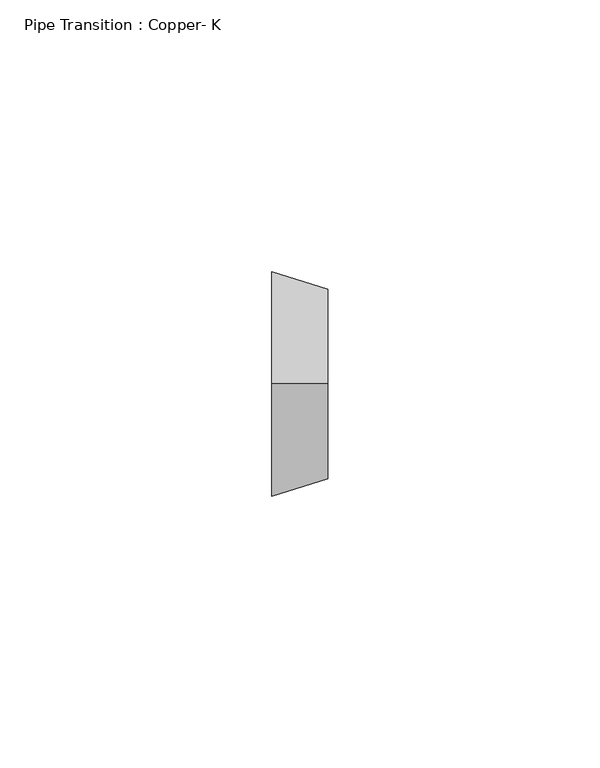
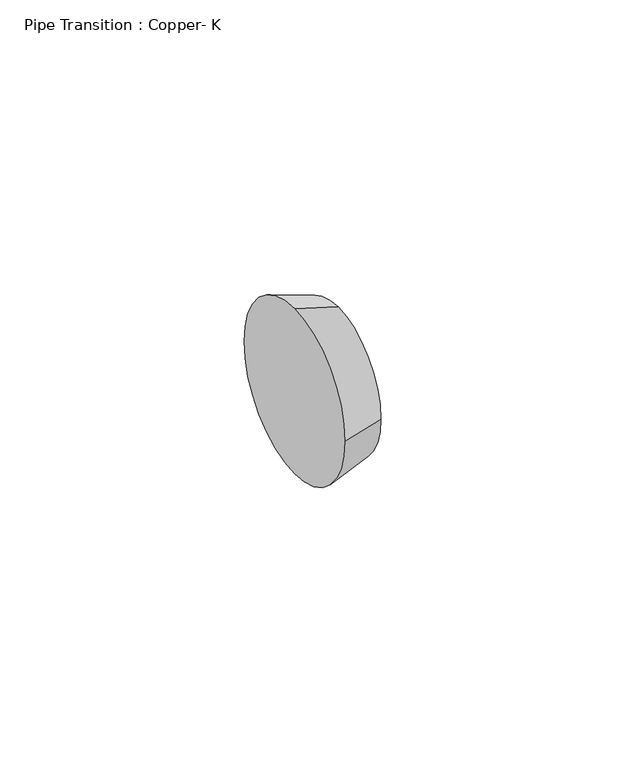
"""IFC4 building model written with IfcOpenShell, lengths in millimetres: pipe fitting geometry, Pipe Transition : Copper- K."""

from ifc_helpers import new_model, si_unit, frame, origin, place, context, project, spatial, polyline, circle_curve, source, transform, mapped, element, save
from ifc_brep_helpers import plane_surface, revolved_surface, advanced_brep


def pipe_transition_copper_k_f5fb5327(model_context):
    return source(origin(), model_context, "Body", "AdvancedBrep", [
        advanced_brep(
        [(10.31875, 0.0, 17.4625), (10.31875, -17.4625, 0.0), (10.31875, 0.0, -17.4625), (10.31875, 17.4625, 0.0), (0.0, 0.0, 20.6375), (0.0, 20.6375, 0.0), (0.0, 0.0, -20.6375), (0.0, -20.6375, 0.0)],
        [
            (0, 1, circle_curve(frame((10.31875, 0.0, 0.0), z_axis=(1.0, 0.0, 0.0), x_axis=(0.0, 0.0, 1.0)), 17.4625)),
            (1, 2, circle_curve(frame((10.31875, 0.0, 0.0), z_axis=(1.0, 0.0, 0.0), x_axis=(0.0, -1.0, 0.0)), 17.4625)),
            (2, 3, circle_curve(frame((10.31875, 0.0, 0.0), z_axis=(1.0, 0.0, 0.0), x_axis=(0.0, 0.0, -1.0)), 17.4625)),
            (3, 0, circle_curve(frame((10.31875, 0.0, 0.0), z_axis=(1.0, 0.0, 0.0), x_axis=(0.0, 1.0, 0.0)), 17.4625)),
            (4, 5, circle_curve(frame((0.0, 0.0, 0.0), z_axis=(-1.0, 0.0, 0.0), x_axis=(0.0, 1.0, 0.0)), 20.6375)),
            (5, 6, circle_curve(frame((0.0, 0.0, 0.0), z_axis=(-1.0, 0.0, 0.0), x_axis=(0.0, 0.0, -1.0)), 20.6375)),
            (6, 7, circle_curve(frame((0.0, 0.0, 0.0), z_axis=(-1.0, 0.0, 0.0), x_axis=(0.0, -1.0, 0.0)), 20.6375)),
            (7, 4, circle_curve(frame((0.0, 0.0, 0.0), z_axis=(-1.0, 0.0, 0.0), x_axis=(0.0, 0.0, 1.0)), 20.6375)),
            (7, 1),
            (0, 4),
            (6, 2),
            (5, 3),
        ],
        [
            plane_surface(frame((10.31875, 0.0, 0.0), z_axis=(1.0, 0.0, 0.0), x_axis=(0.0, -1.0, 0.0))),
            plane_surface(frame((0.0, 0.0, 0.0), z_axis=(-1.0, 0.0, 0.0), x_axis=(0.0, -1.0, 0.0))),
            revolved_surface(polyline([(10.318750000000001, 0.0, 17.4625), (0.0, 0.0, 20.6375)]), (67.071875, 0.0, 0.0), (-1.0, 0.0, 0.0)),
            revolved_surface(polyline([(10.318750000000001, -17.4625, 0.0), (0.0, -20.6375, 0.0)]), (67.071875, 0.0, 0.0), (-1.0, 0.0, 0.0)),
            revolved_surface(polyline([(10.318750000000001, 0.0, -17.4625), (0.0, 0.0, -20.6375)]), (67.071875, 0.0, 0.0), (-1.0, 0.0, 0.0)),
            revolved_surface(polyline([(10.318750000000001, 17.4625, 0.0), (0.0, 20.6375, 0.0)]), (67.071875, 0.0, 0.0), (-1.0, 0.0, 0.0)),
        ],
        [
            (0, [[1, 2, 3, 4]]),
            (1, [[5, 6, 7, 8]]),
            (2, [[-8, 9, -1, 10]]),
            (3, [[-7, 11, -2, -9]]),
            (4, [[-6, 12, -3, -11]]),
            (5, [[-5, -10, -4, -12]]),
        ],
    ),
        advanced_brep(
        [(10.31875, 0.0, 17.4625), (10.31875, -17.4625, 0.0), (10.31875, 0.0, -17.4625), (10.31875, 17.4625, 0.0), (0.0, 0.0, 20.6375), (0.0, 20.6375, 0.0), (0.0, 0.0, -20.6375), (0.0, -20.6375, 0.0)],
        [
            (0, 1, circle_curve(frame((10.31875, 0.0, 0.0), z_axis=(1.0, 0.0, 0.0), x_axis=(0.0, 0.0, 1.0)), 17.4625)),
            (1, 2, circle_curve(frame((10.31875, 0.0, 0.0), z_axis=(1.0, 0.0, 0.0), x_axis=(0.0, -1.0, 0.0)), 17.4625)),
            (2, 3, circle_curve(frame((10.31875, 0.0, 0.0), z_axis=(1.0, 0.0, -1.2689316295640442e-12), x_axis=(-1.268833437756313e-12, 0.0, -1.0)), 17.4625)),
            (3, 0, circle_curve(frame((10.31875, 0.0, 0.0), z_axis=(1.0, 0.0, 0.0), x_axis=(0.0, 1.0, 0.0)), 17.4625)),
            (4, 5, circle_curve(frame((0.0, 0.0, 0.0), z_axis=(-1.0, 0.0, 0.0), x_axis=(0.0, 1.0, 0.0)), 20.6375)),
            (5, 6, circle_curve(frame((0.0, 0.0, 0.0), z_axis=(-1.0, 0.0, 1.2689316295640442e-12), x_axis=(-1.268833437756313e-12, 0.0, -1.0)), 20.6375)),
            (6, 7, circle_curve(frame((0.0, 0.0, 0.0), z_axis=(-1.0, 0.0, 0.0), x_axis=(0.0, -1.0, 0.0)), 20.6375)),
            (7, 4, circle_curve(frame((0.0, 0.0, 0.0), z_axis=(-1.0, 0.0, 0.0), x_axis=(0.0, 0.0, 1.0)), 20.6375)),
            (7, 1),
            (0, 4),
            (6, 2),
            (5, 3),
        ],
        [
            plane_surface(frame((10.31875, 0.0, 0.0), z_axis=(1.0, 0.0, 0.0), x_axis=(0.0, -1.0, 0.0))),
            plane_surface(frame((0.0, 0.0, 0.0), z_axis=(-1.0, 0.0, 0.0), x_axis=(0.0, -1.0, 0.0))),
            revolved_surface(polyline([(10.318750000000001, 0.0, 17.4625), (0.0, 0.0, 20.6375)]), (67.071875, 0.0, 0.0), (-1.0, 0.0, 0.0)),
            revolved_surface(polyline([(10.318750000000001, -17.4625, 0.0), (0.0, -20.6375, 0.0)]), (67.071875, 0.0, 0.0), (-1.0, 0.0, 0.0)),
            revolved_surface(polyline([(10.318750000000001, 0.0, -17.4625), (-2.6190605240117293e-11, 0.0, -20.63750000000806)]), (67.071875, 0.0, 0.0), (-1.0, 0.0, 1.2689316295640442e-12)),
            revolved_surface(polyline([(10.318750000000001, 17.4625, 0.0), (0.0, 20.6375, 0.0)]), (67.071875, 0.0, 0.0), (-1.0, 0.0, 0.0)),
        ],
        [
            (0, [[1, 2, 3, 4]]),
            (1, [[5, 6, 7, 8]]),
            (2, [[-8, 9, -1, 10]]),
            (3, [[-7, 11, -2, -9]]),
            (4, [[-6, 12, -3, -11]]),
            (5, [[-5, -10, -4, -12]]),
        ],
    ),
    ])


if __name__ == "__main__":
    model = new_model("IFC4")
    model_context = context("Model", 3, world=origin())
    ifc_project = project(units=[si_unit("LENGTHUNIT", "METRE", prefix="MILLI")], contexts=[model_context])
    site = spatial("IfcSite", under=ifc_project)
    building = spatial("IfcBuilding", under=site)
    placement = place(None, origin())
    pipe_transition_copper_k_shape = pipe_transition_copper_k_f5fb5327(model_context)
    element("IfcPipeFitting", 1, ObjectType="Pipe Transition : Copper- K", at=placement, inside=building, context=model_context, shape_type="MappedRepresentation", body=[
        mapped(pipe_transition_copper_k_shape, transform((0.0, 0.0, 0.0), x_axis=(1.0, 0.0, 0.0), y_axis=(0.0, 1.0, 0.0), z_axis=(0.0, 0.0, 1.0))),
    ])
    save(model, "model.ifc")
